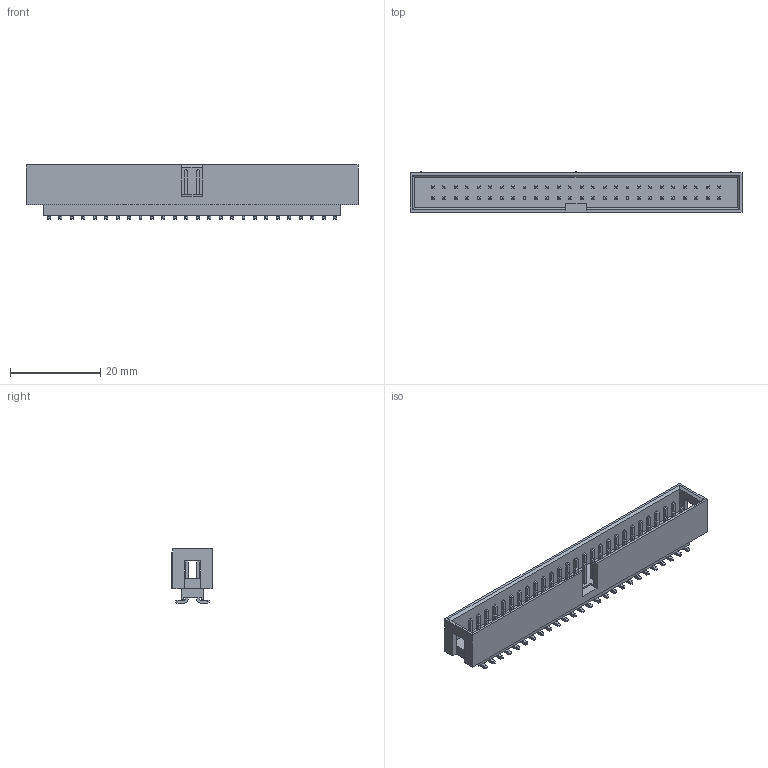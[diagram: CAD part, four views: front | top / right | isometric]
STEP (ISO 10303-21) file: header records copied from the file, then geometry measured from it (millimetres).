
FILE_DESCRIPTION (( 'STEP AP203' ), '1' );
FILE_NAME ('HC-JN254-2-26-S-11.3-XX (潠籟2.54 樓詢 邧齬 泂え-HCTL).STEP', '2026-05-05T06:33:26', ( '' ), ( '' ), 'SwSTEP 2.0', 'SolidWorks 2025', '' );
FILE_SCHEMA (( 'CONFIG_CONTROL_DESIGN' ));
Length unit declared in the file: millimetre
Products named in the file (1): HC-JN254-2-26-S-11.3-XX (简牛2.54 加高 双排 贴片-HCTL)
Bounding box: 73.64 x 8.9 x 12 mm (x, y, z)
Volume: 3291.7 mm3; surface area: 5363.6 mm2
Topology: 1 solids, 51 shells, 1656 faces, 3879 edges, 2370 vertices
Faces by surface type: plane 1549, cylinder 107
Entity records: 45862 total; most frequent: CARTESIAN_POINT 7930, ORIENTED_EDGE 7758, DIRECTION 7399, EDGE_CURVE 3879, LINE 3657, VECTOR 3657, VERTEX_POINT 2370, AXIS2_PLACEMENT_3D 1871
